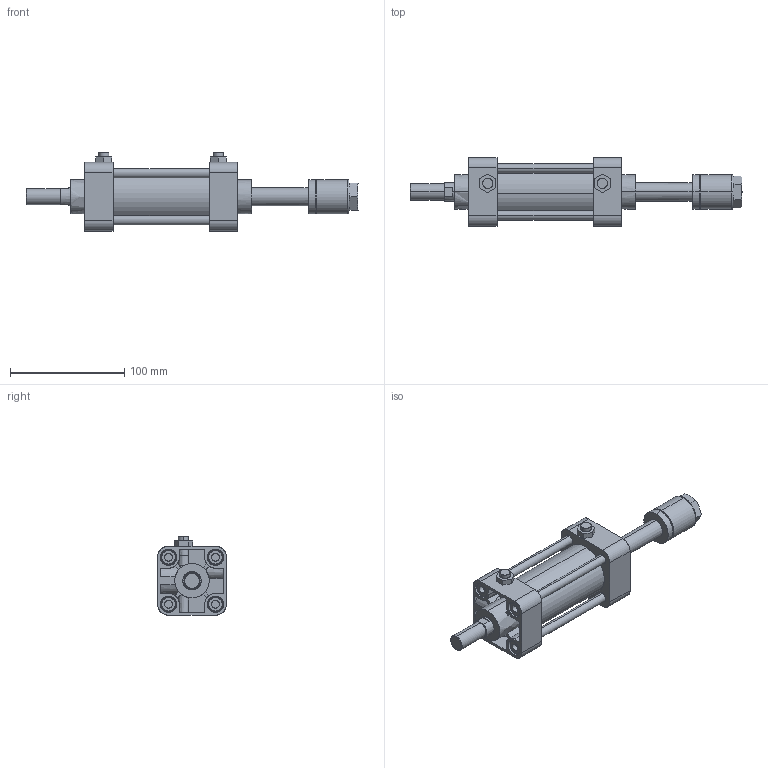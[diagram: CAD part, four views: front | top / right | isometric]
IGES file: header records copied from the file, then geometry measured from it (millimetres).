
Start section: SolidWorks IGES file using analytic representation for surfaces
Global section: file name: C:\Users\Toshiba\Desktop\KGA7-40#-50-N.IGS; native system: SolidWorks 2014; preprocessor: SolidWorks 2014; author: Toshiba; date: 160414.154815; units: millimetre
Bounding box: 290 x 60 x 68.3 mm (x, y, z)
Surface area: 97088.4 mm2 (no closed solid volume)
Topology: 0 solids, 0 shells, 411 faces, 6253 edges, 6219 vertices
Faces by surface type: bspline 207, revolution 204
